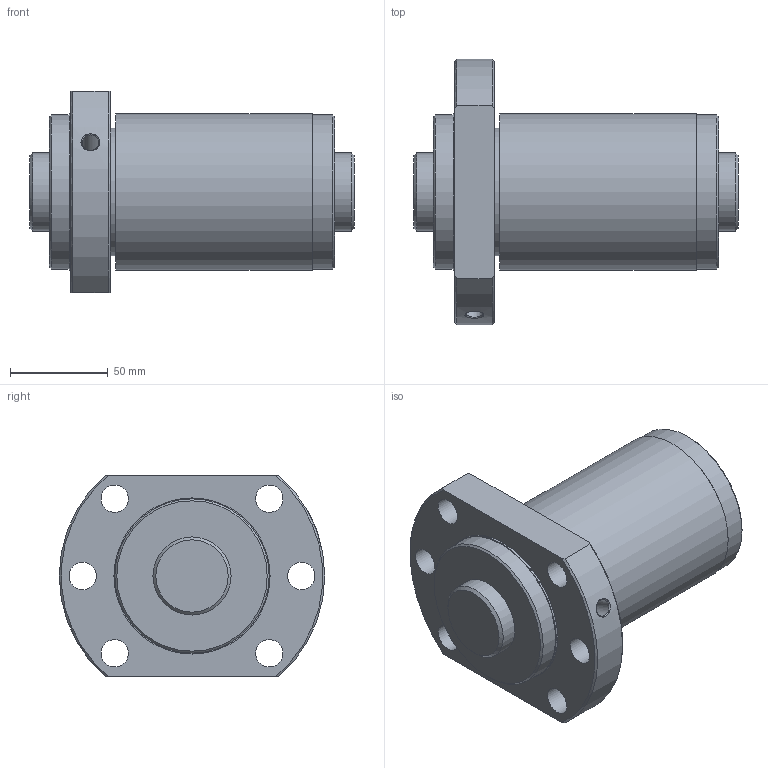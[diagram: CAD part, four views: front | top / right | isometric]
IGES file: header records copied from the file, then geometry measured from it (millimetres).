
Start section: Data from Parasolid IGES Translator 26.0.171, Copyright(c) 2006 Siemens PLM Software. All Rights Reserved.
Global section: file name: SBK4040-5.6RRG0+166LC0(0000).igs; native system: By Siemens PLM Incorporated; preprocessor: XPlus GENERIC/IGES 26.0.171; author: Noname; organization: Noname; date: 20240528.112025; units: millimetre
Bounding box: 166 x 136 x 103 mm (x, y, z)
Surface area: 110797.2 mm2 (no closed solid volume)
Topology: 0 solids, 0 shells, 37 faces, 159 edges, 136 vertices
Faces by surface type: revolution 26, extrusion 11
